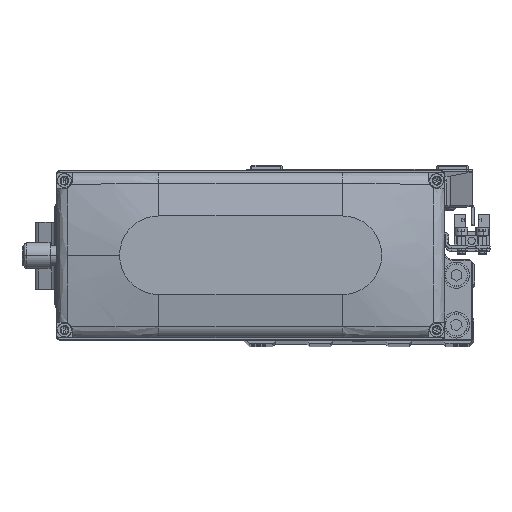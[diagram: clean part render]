
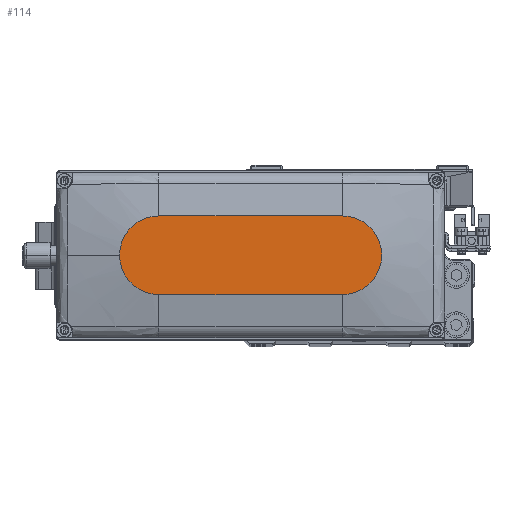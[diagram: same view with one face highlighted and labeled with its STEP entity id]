
A CAD part, top view. The second image highlights one B-rep face of the part: STEP entity #114.
In plain terms, the highlighted planar face has unit normal (0, 0, 1).
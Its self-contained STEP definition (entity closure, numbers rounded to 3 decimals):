
#114 = ADVANCED_FACE ( 'NONE', ( #1384 ), #16395, .T. ) ;
#1384 = FACE_OUTER_BOUND ( 'NONE', #45729, .T. ) ;
#3621 = LINE ( 'NONE', #18616, #8178 ) ;
#4753 = ORIENTED_EDGE ( 'NONE', *, *, #26738, .T. ) ;
#5222 = EDGE_CURVE ( 'NONE', #25964, #41104, #3621, .T. ) ;
#6056 = VECTOR ( 'NONE', #46146, 1000. ) ;
#7275 = CIRCLE ( 'NONE', #34808, 15. ) ;
#8049 = CARTESIAN_POINT ( 'NONE',  ( 50., 0., 35. ) ) ;
#8178 = VECTOR ( 'NONE', #33639, 1000. ) ;
#8773 = DIRECTION ( 'NONE',  ( 1., 0., 0. ) ) ;
#9217 = DIRECTION ( 'NONE',  ( 0., 0., 1. ) ) ;
#9663 = CIRCLE ( 'NONE', #37178, 15. ) ;
#12685 = DIRECTION ( 'NONE',  ( 1., 0., 0. ) ) ;
#14152 = ORIENTED_EDGE ( 'NONE', *, *, #5222, .T. ) ;
#15220 = CARTESIAN_POINT ( 'NONE',  ( -35., 15., 35. ) ) ;
#15620 = EDGE_CURVE ( 'NONE', #39744, #19614, #48394, .T. ) ;
#16111 = LINE ( 'NONE', #31111, #6056 ) ;
#16395 = PLANE ( 'NONE',  #33978 ) ;
#17585 = CARTESIAN_POINT ( 'NONE',  ( 35., 0., 35. ) ) ;
#18489 = EDGE_CURVE ( 'NONE', #19614, #45180, #16111, .T. ) ;
#18616 = CARTESIAN_POINT ( 'NONE',  ( -35., -15., 35. ) ) ;
#19614 = VERTEX_POINT ( 'NONE', #28742 ) ;
#24227 = DIRECTION ( 'NONE',  ( 1., 0., 0. ) ) ;
#25964 = VERTEX_POINT ( 'NONE', #28504 ) ;
#26301 = EDGE_CURVE ( 'NONE', #45180, #25964, #7275, .T. ) ;
#26738 = EDGE_CURVE ( 'NONE', #41104, #39744, #9663, .T. ) ;
#27182 = AXIS2_PLACEMENT_3D ( 'NONE', #17585, #32601, #47618 ) ;
#27482 = CARTESIAN_POINT ( 'NONE',  ( -35., 0., 35. ) ) ;
#28504 = CARTESIAN_POINT ( 'NONE',  ( -35., -15., 35. ) ) ;
#28742 = CARTESIAN_POINT ( 'NONE',  ( 35., 15., 35. ) ) ;
#31111 = CARTESIAN_POINT ( 'NONE',  ( -35., 15., 35. ) ) ;
#31385 = CARTESIAN_POINT ( 'NONE',  ( 0., 0., 35. ) ) ;
#31660 = CARTESIAN_POINT ( 'NONE',  ( 35., -15., 35. ) ) ;
#32601 = DIRECTION ( 'NONE',  ( 0., 0., 1. ) ) ;
#33639 = DIRECTION ( 'NONE',  ( 1., 0., 0. ) ) ;
#33978 = AXIS2_PLACEMENT_3D ( 'NONE', #31385, #46415, #12685 ) ;
#34808 = AXIS2_PLACEMENT_3D ( 'NONE', #27482, #42513, #8773 ) ;
#35708 = ORIENTED_EDGE ( 'NONE', *, *, #18489, .T. ) ;
#37178 = AXIS2_PLACEMENT_3D ( 'NONE', #42962, #9217, #24227 ) ;
#39744 = VERTEX_POINT ( 'NONE', #8049 ) ;
#41104 = VERTEX_POINT ( 'NONE', #31660 ) ;
#42513 = DIRECTION ( 'NONE',  ( 0., 0., 1. ) ) ;
#42962 = CARTESIAN_POINT ( 'NONE',  ( 35., 0., 35. ) ) ;
#44210 = ORIENTED_EDGE ( 'NONE', *, *, #26301, .T. ) ;
#45180 = VERTEX_POINT ( 'NONE', #15220 ) ;
#45729 = EDGE_LOOP ( 'NONE', ( #35708, #44210, #14152, #4753, #48207 ) ) ;
#46146 = DIRECTION ( 'NONE',  ( -1., 0., 0. ) ) ;
#46415 = DIRECTION ( 'NONE',  ( 0., 0., 1. ) ) ;
#47618 = DIRECTION ( 'NONE',  ( 1., 0., 0. ) ) ;
#48207 = ORIENTED_EDGE ( 'NONE', *, *, #15620, .T. ) ;
#48394 = CIRCLE ( 'NONE', #27182, 15. ) ;
